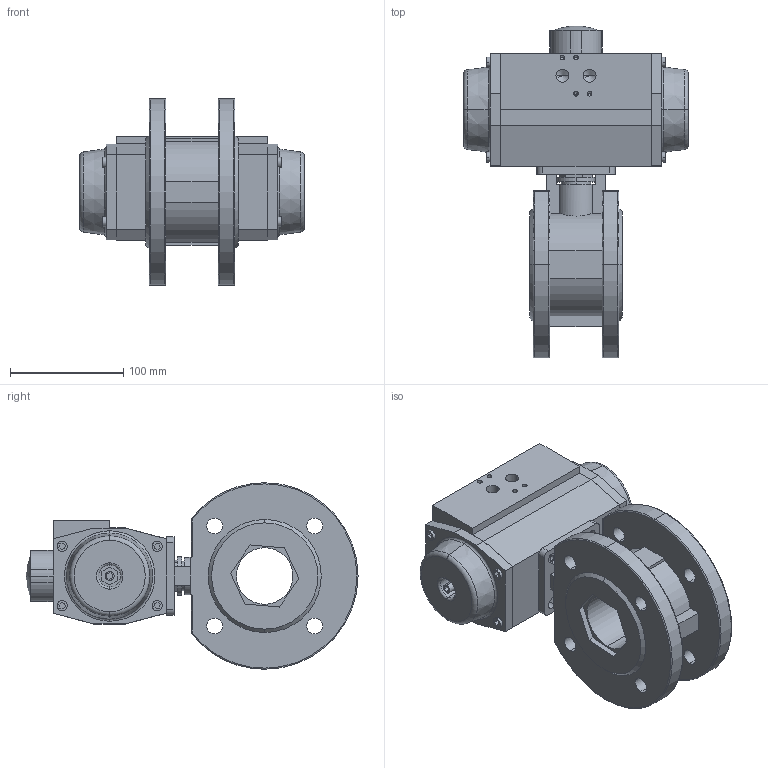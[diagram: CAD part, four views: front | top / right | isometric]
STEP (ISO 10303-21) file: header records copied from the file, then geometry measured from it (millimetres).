
FILE_DESCRIPTION (( 'STEP AP214' ), '1' );
FILE_NAME ('S15D DN50 AP3.STEP', '2012-04-24T08:16:13', ( 'Jan' ), ( '' ), 'SwSTEP 2.0', 'SolidWorks 2011', '' );
FILE_SCHEMA (( 'AUTOMOTIVE_DESIGN' ));
Length unit declared in the file: millimetre
Products named in the file (3): S15D DN50 AP3; S15D KK DN50 PN16; AP3_Default<As Machined>
Assembly tree (2 placements, depth 2):
  S15D DN50 AP3
    AP3_Default<As Machined>
    S15D KK DN50 PN16
Bounding box: 199 x 293.69 x 165 mm (x, y, z)
Volume: 2345512.1 mm3; surface area: 231585.3 mm2
Topology: 9 solids, 9 shells, 434 faces, 1089 edges, 687 vertices
Faces by surface type: plane 230, cylinder 134, cone 44, torus 24, sphere 2
Entity records: 14459 total; most frequent: CARTESIAN_POINT 2354, DIRECTION 2229, ORIENTED_EDGE 2106, EDGE_CURVE 1053, AXIS2_PLACEMENT_3D 756, LINE 717, VECTOR 717, VERTEX_POINT 687
